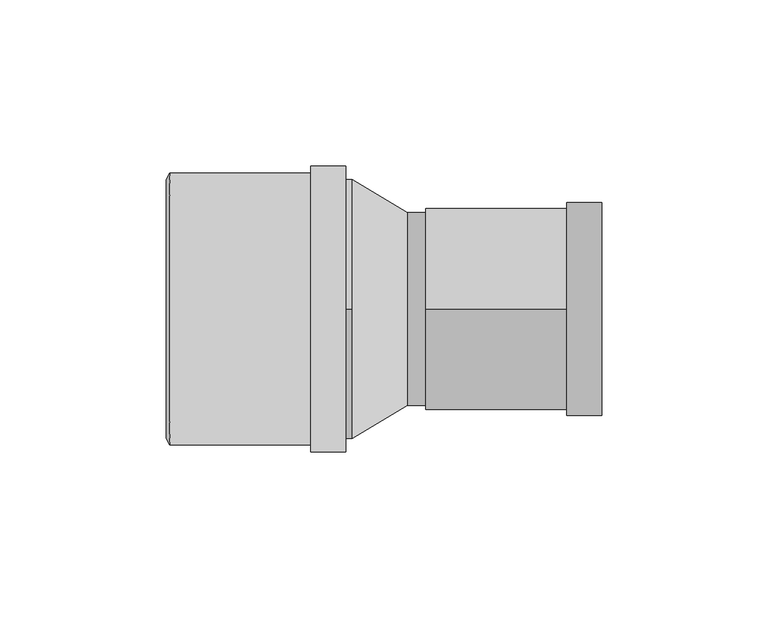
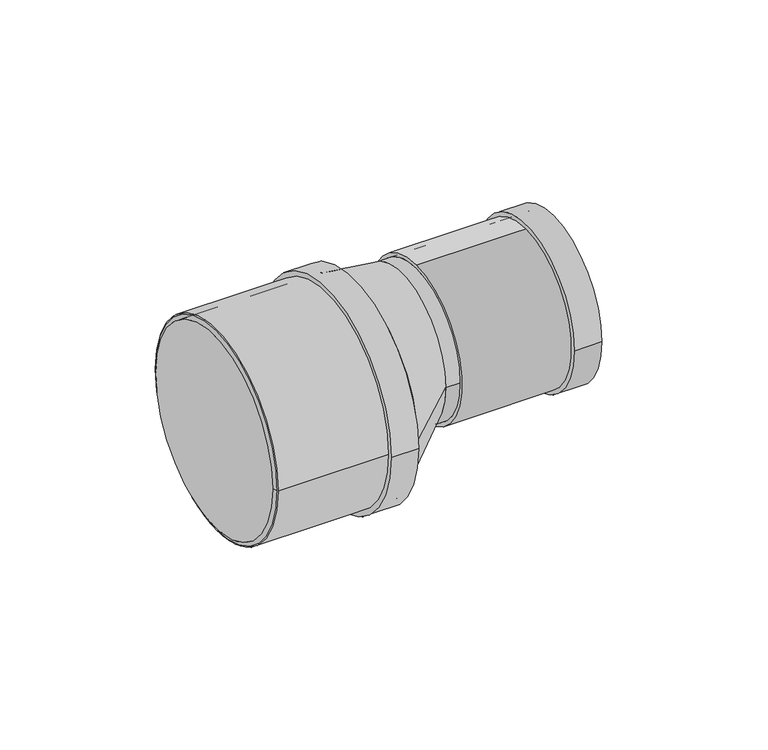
"""IFC4 building model written with IfcOpenShell, lengths in millimetres: pipe fitting geometry, Superdrain SKR-Reducer : Superdrain SKR-Reducer."""

import ifcopenshell
import ifcopenshell.guid

model = None  # the IFC model being written
_history = None  # IfcOwnerHistory: only IFC2X3 demands one
_inside = {}  # id of a spatial element -> (the spatial element, [elements in it])
_under = {}  # id of a project, library or spatial element -> (it, [spatial elements below it])
_declared = {}  # id of a project -> (the project, [libraries it declares])
_typed = {}  # id of a type object -> (the type object, [elements of that type])
_made_of = {}  # id of a material, layer set ... -> (it, [elements and type objects made of it])


def new_model(schema):
    """Start an empty IFC model of exactly this schema.

    Asked for "IFC4X3", IfcOpenShell would pick the latest addendum, in which some entities
    have other attributes; the version numbers below select the first issue.
    IFC2X3 requires an IfcOwnerHistory on every rooted entity: one is made here for all.
    """
    global model, _history
    if schema == "IFC4X3":
        model = ifcopenshell.file(schema_version=(4, 3, 0, 0))
    else:
        model = ifcopenshell.file(schema=schema)
    _inside.clear()
    _under.clear()
    _declared.clear()
    _typed.clear()
    _made_of.clear()
    _history = None
    if model.schema == "IFC2X3":
        org = make("IfcOrganization", Name="unknown")
        user = make(
            "IfcPersonAndOrganization",
            ThePerson=make("IfcPerson", FamilyName="unknown"),
            TheOrganization=org,
        )
        app = make(
            "IfcApplication",
            ApplicationDeveloper=org,
            Version="unknown",
            ApplicationFullName="unknown",
            ApplicationIdentifier="unknown",
        )
        _history = make(
            "IfcOwnerHistory",
            OwningUser=user,
            OwningApplication=app,
            ChangeAction="ADDED",
            CreationDate=0,
        )
    return model


def make(cls, **values):
    """One entity of the class cls with the attributes given. An attribute that is None is left unset."""
    return model.create_entity(
        cls, **{name: value for name, value in values.items() if value is not None}
    )


def rooted(cls, **values):
    """An entity with a GlobalId (a new one), such as an element, a storey or a relation."""
    return make(cls, GlobalId=ifcopenshell.guid.new(), OwnerHistory=_history, **values)


def si_unit(unit_type, name, prefix=None):
    """IfcSIUnit, for example si_unit("LENGTHUNIT", "METRE", prefix="MILLI")."""
    return make("IfcSIUnit", UnitType=unit_type, Prefix=prefix, Name=name)


def assignment(units):
    """IfcUnitAssignment: the units of a project."""
    return None if units is None else make("IfcUnitAssignment", Units=units)


def point(xyz):
    """IfcCartesianPoint."""
    return None if xyz is None else make("IfcCartesianPoint", Coordinates=xyz)


def direction(xyz):
    """IfcDirection."""
    return None if xyz is None else make("IfcDirection", DirectionRatios=xyz)


def frame(location, z_axis=None, x_axis=None):
    """IfcAxis2Placement3D, a coordinate frame: its origin and axes. An axis left out is left unset."""
    return make(
        "IfcAxis2Placement3D",
        Location=point(location),
        Axis=direction(z_axis),
        RefDirection=direction(x_axis),
    )


def frame_2d(location, x_axis=None):
    """IfcAxis2Placement2D, a coordinate frame in the plane: its origin and x axis."""
    return make(
        "IfcAxis2Placement2D", Location=point(location), RefDirection=direction(x_axis)
    )


def origin():
    """The frame at (0, 0, 0) with its axes left unset."""
    return frame((0.0, 0.0, 0.0))


def origin_2d():
    """The frame at (0, 0) in the plane with its x axis left unset."""
    return frame_2d((0.0, 0.0))


def place(relative_to, where):
    """IfcLocalPlacement: puts the frame where relative to a parent placement (None: the world)."""
    return make(
        "IfcLocalPlacement", PlacementRelTo=relative_to, RelativePlacement=where
    )


def context(
    kind, dimensions, precision=None, world=None, true_north=None, identifier=None
):
    """IfcGeometricRepresentationContext, for example the 3D "Model" context."""
    return make(
        "IfcGeometricRepresentationContext",
        ContextIdentifier=identifier,
        ContextType=kind,
        CoordinateSpaceDimension=dimensions,
        Precision=precision,
        WorldCoordinateSystem=world,
        TrueNorth=true_north,
    )


def project(units=None, contexts=None):
    """IfcProject with its units and contexts."""
    return rooted(
        "IfcProject",
        Name="project",
        RepresentationContexts=contexts,
        UnitsInContext=assignment(units),
    )


def spatial(cls, under=None, at=None, **own):
    """A site, building, storey or space (cls), placed at a placement, below another one or the project."""
    s = rooted(cls, ObjectPlacement=at, **own)
    if under is not None:
        _under.setdefault(under.id(), (under, []))[1].append(s)
    return s


def polyline(points):
    """IfcPolyline through the points."""
    return make("IfcPolyline", Points=[point(p) for p in points])


def circle_curve(where, radius):
    """IfcCircle in the frame where."""
    return make("IfcCircle", Position=where, Radius=radius)


def trimmed(basis, trim1, trim2, sense, master):
    """IfcTrimmedCurve: the piece of a basis curve between two trims."""
    return make(
        "IfcTrimmedCurve",
        BasisCurve=basis,
        Trim1=trim1,
        Trim2=trim2,
        SenseAgreement=sense,
        MasterRepresentation=master,
    )


def segment(curve, same_sense, transition):
    """IfcCompositeCurveSegment."""
    return make(
        "IfcCompositeCurveSegment",
        Transition=transition,
        SameSense=same_sense,
        ParentCurve=curve,
    )


def composite_curve(segments, self_intersect=None):
    """IfcCompositeCurve: segments joined end to end."""
    return make("IfcCompositeCurve", Segments=segments, SelfIntersect=self_intersect)


def outline(outer, holes=None, kind="AREA"):
    """IfcArbitraryClosedProfileDef: a profile drawn as a closed curve; with holes, ...WithVoids."""
    if holes is None:
        return make("IfcArbitraryClosedProfileDef", ProfileType=kind, OuterCurve=outer)
    return make(
        "IfcArbitraryProfileDefWithVoids",
        ProfileType=kind,
        OuterCurve=outer,
        InnerCurves=holes,
    )


def extrude(swept, where, along, depth):
    """IfcExtrudedAreaSolid: the profile swept, set in the frame where, extruded along a direction by depth."""
    return make(
        "IfcExtrudedAreaSolid",
        SweptArea=swept,
        Position=where,
        ExtrudedDirection=direction(along),
        Depth=depth,
    )


def shape(context_of_items, identifier, shape_type, items):
    """IfcShapeRepresentation: the items that make up one representation, for example the "Body"."""
    return make(
        "IfcShapeRepresentation",
        ContextOfItems=context_of_items,
        RepresentationIdentifier=identifier,
        RepresentationType=shape_type,
        Items=items,
    )


def source(mapping_origin, context_of_items, identifier, shape_type, items):
    """IfcRepresentationMap: a shape defined once, which mapped items show again and again."""
    return make(
        "IfcRepresentationMap",
        MappingOrigin=mapping_origin,
        MappedRepresentation=shape(context_of_items, identifier, shape_type, items),
    )


def transform(
    local_origin,
    x_axis=None,
    y_axis=None,
    z_axis=None,
    scale=None,
    scale2=None,
    scale3=None,
    uniform=True,
):
    """IfcCartesianTransformationOperator3D, or its non-uniform kind. x_axis, y_axis, z_axis: its Axis1, 2, 3."""
    if uniform:
        return make(
            "IfcCartesianTransformationOperator3D",
            Axis1=direction(x_axis),
            Axis2=direction(y_axis),
            LocalOrigin=point(local_origin),
            Scale=scale,
            Axis3=direction(z_axis),
        )
    return make(
        "IfcCartesianTransformationOperator3DnonUniform",
        Axis1=direction(x_axis),
        Axis2=direction(y_axis),
        LocalOrigin=point(local_origin),
        Scale=scale,
        Axis3=direction(z_axis),
        Scale2=scale2,
        Scale3=scale3,
    )


def mapped(mapping_source, mapping_target):
    """IfcMappedItem: shows the shape of a source again, moved by a transform."""
    return make(
        "IfcMappedItem", MappingSource=mapping_source, MappingTarget=mapping_target
    )


def made_of(thing, what):
    """Note that an element or type object is made of a material, layer set ...; save() writes the relation."""
    if what is not None:
        _made_of.setdefault(what.id(), (what, []))[1].append(thing)
    return thing


def element(
    cls,
    number,
    at=None,
    inside=None,
    cuts=None,
    type_object=None,
    material=None,
    context=None,
    identifier="Body",
    shape_type=None,
    held_by="IfcProductDefinitionShape",
    body=None,
    shapes=None,
    **own,
):
    """One element of the class cls, such as IfcWall. Its Tag is "e" and its number.

    at: its placement. inside: the storey or other place that contains it. cuts: it is an
    opening in that element (IfcRelVoidsElement). A single representation is given by context,
    identifier, shape_type and body (its items); several are given by shapes. held_by: the class
    of the entity that holds the representations. save() writes the other relations.
    """
    e = rooted(cls, Tag="e%d" % number, ObjectPlacement=at, **own)
    if body is not None:
        shapes = [shape(context, identifier, shape_type, body)]
    if shapes is not None:
        e.Representation = make(held_by, Representations=shapes)
    if inside is not None:
        _inside.setdefault(inside.id(), (inside, []))[1].append(e)
    if cuts is not None:
        rooted(
            "IfcRelVoidsElement", RelatingBuildingElement=cuts, RelatedOpeningElement=e
        )
    if type_object is not None:
        _typed.setdefault(type_object.id(), (type_object, []))[1].append(e)
    return made_of(e, material)


def aggregate(whole, parts):
    """IfcRelAggregates: a whole, such as a stair, and the parts it consists of."""
    return rooted("IfcRelAggregates", RelatingObject=whole, RelatedObjects=parts)


def save(model, path):
    """Write the relations noted so far, then the file.

    IfcRelAggregates (storeys below a building ...), IfcRelContainedInSpatialStructure (elements
    in a storey), IfcRelDefinesByType, IfcRelAssociatesMaterial and IfcRelDeclares: one each for
    every whole, place, type object, material and project.
    """
    for whole, parts in _under.values():
        aggregate(whole, parts)
    for where, things in _inside.values():
        rooted(
            "IfcRelContainedInSpatialStructure",
            RelatedElements=things,
            RelatingStructure=where,
        )
    for kind, things in _typed.values():
        rooted("IfcRelDefinesByType", RelatedObjects=things, RelatingType=kind)
    for what, things in _made_of.values():
        rooted("IfcRelAssociatesMaterial", RelatedObjects=things, RelatingMaterial=what)
    for by, libraries in _declared.values():
        rooted("IfcRelDeclares", RelatingContext=by, RelatedDefinitions=libraries)
    model.write(path)


def plane_surface(at):
    """IfcPlane: the flat surface through the origin of the frame at, square to its z axis."""
    return make("IfcPlane", Position=at)


def revolved_surface(curve, axis_point, axis_direction):
    """IfcSurfaceOfRevolution: the curve turned about the line through axis_point along axis_direction."""
    return make(
        "IfcSurfaceOfRevolution",
        SweptCurve=make("IfcArbitraryOpenProfileDef", ProfileType="CURVE", Curve=curve),
        AxisPosition=make("IfcAxis1Placement", Location=point(axis_point), Axis=direction(axis_direction)),
    )


def spline_surface(u_degree, v_degree, points, u_multiplicities, v_multiplicities, u_knots, v_knots, weights=None):
    """IfcBSplineSurfaceWithKnots; with weights, IfcRationalBSplineSurfaceWithKnots. points: one row for each step in u."""
    own = dict(
        UDegree=u_degree,
        VDegree=v_degree,
        ControlPointsList=[[point(p) for p in row] for row in points],
        SurfaceForm="UNSPECIFIED",
        UClosed=False,
        VClosed=False,
        SelfIntersect=False,
        UMultiplicities=u_multiplicities,
        VMultiplicities=v_multiplicities,
        UKnots=u_knots,
        VKnots=v_knots,
        KnotSpec="UNSPECIFIED",
    )
    if weights is None:
        return make("IfcBSplineSurfaceWithKnots", **own)
    return make("IfcRationalBSplineSurfaceWithKnots", WeightsData=weights, **own)


def advanced_brep(points, edges, surfaces, faces):
    """IfcAdvancedBrep: a solid bounded by faces that lie on surfaces and meet in shared edges.

    An edge is (start, end): straight between two places in points (the first is 0);
    or (start, end, curve); or (start, end, curve, False) where it runs against its curve.
    A face is (place in surfaces, loops), or (place, loops, False) where it looks against
    its surface's normal. A loop lists edges by number (the first is 1), with a minus sign
    where the edge is run from its end to its start. The first loop is the outer one.
    """
    corners = [point(p) for p in points]
    vertices = [make("IfcVertexPoint", VertexGeometry=c) for c in corners]
    made = []
    for start, end, *more in edges:
        made.append(
            make(
                "IfcEdgeCurve",
                EdgeStart=vertices[start],
                EdgeEnd=vertices[end],
                EdgeGeometry=more[0] if more else make("IfcPolyline", Points=[corners[start], corners[end]]),
                SameSense=more[1] if len(more) > 1 else True,
            )
        )
    hull = []
    for where, loops, *sense in faces:
        bounds = []
        for j, loop in enumerate(loops):
            ring = [make("IfcOrientedEdge", EdgeElement=made[abs(k) - 1], Orientation=k > 0) for k in loop]
            bounds.append(
                make(
                    "IfcFaceOuterBound" if j == 0 else "IfcFaceBound",
                    Bound=make("IfcEdgeLoop", EdgeList=ring),
                    Orientation=True,
                )
            )
        hull.append(make("IfcAdvancedFace", Bounds=bounds, FaceSurface=surfaces[where], SameSense=sense[0] if sense else True))
    return make("IfcAdvancedBrep", Outer=make("IfcClosedShell", CfsFaces=hull))


def pipe_fitting_bc1e16e1(model_context):
    return source(origin(), model_context, "Body", "SolidModel", [
        extrude(outline(composite_curve([segment(trimmed(circle_curve(frame_2d((0.0, 0.1450234)), 40.95), [point((40.95, 0.1450234))], [point((-40.95, 0.1450234))], False, "CARTESIAN"), True, "CONTINUOUS"), segment(trimmed(circle_curve(frame_2d((0.0, 0.1450234)), 40.95), [point((-40.95, 0.1450234))], [point((40.95, 0.1450234))], False, "CARTESIAN"), True, "CONTINUOUS")], self_intersect=False), holes=[composite_curve([segment(trimmed(circle_curve(frame_2d((0.0, 0.1450234)), 39.0), [point((39.0, 0.1450234))], [point((-39.0, 0.1450234))], True, "CARTESIAN"), True, "CONTINUOUS"), segment(trimmed(circle_curve(frame_2d((0.0, 0.1450234)), 39.0), [point((-39.0, 0.1450234))], [point((39.0, 0.1450234))], True, "CARTESIAN"), True, "CONTINUOUS")], self_intersect=False)]), frame((-55.0, 0.0, 0.0), z_axis=(1.0, 0.0, 0.0), x_axis=(0.0, 1.0, 0.0)), (0.0, 0.0, 1.0), 53.0),
        extrude(outline(composite_curve([segment(trimmed(circle_curve(frame_2d((0.0, 0.1450234)), 42.9975), [point((42.9975, 0.1450234))], [point((-42.9975, 0.1450234))], False, "CARTESIAN"), True, "CONTINUOUS"), segment(trimmed(circle_curve(frame_2d((0.0, 0.1450234)), 42.9975), [point((-42.9975, 0.1450234))], [point((42.9975, 0.1450234))], False, "CARTESIAN"), True, "CONTINUOUS")], self_intersect=False), holes=[composite_curve([segment(trimmed(circle_curve(frame_2d((0.0, 0.1450234)), 39.0), [point((39.0, 0.1450234))], [point((-39.0, 0.1450234))], True, "CARTESIAN"), True, "CONTINUOUS"), segment(trimmed(circle_curve(frame_2d((0.0, 0.1450234)), 39.0), [point((-39.0, 0.1450234))], [point((39.0, 0.1450234))], True, "CARTESIAN"), True, "CONTINUOUS")], self_intersect=False)]), frame((-12.6, 0.0, 0.0), z_axis=(1.0, 0.0, 0.0), x_axis=(0.0, 1.0, 0.0)), (0.0, 0.0, 1.0), 10.6),
        advanced_brep(
        [(-56.0, 39.0, 0.1450234), (-56.0, -39.0, 0.1450234), (-55.0, 40.95, 0.1450234), (-55.0, -40.95, 0.1450234)],
        [
            (0, 1, circle_curve(frame((-56.0, 0.0, 0.1450234), z_axis=(-1.0, 0.0, 0.0), x_axis=(0.0, 1.0, 0.0)), 39.0)),
            (1, 0, circle_curve(frame((-56.0, 0.0, 0.1450234), z_axis=(-1.0, 0.0, 0.0), x_axis=(0.0, -1.0, 0.0)), 39.0)),
            (2, 3, circle_curve(frame((-55.0, 0.0, 0.1450234), z_axis=(1.0, 0.0, 0.0), x_axis=(0.0, -1.0, 0.0)), 40.95)),
            (3, 2, circle_curve(frame((-55.0, 0.0, 0.1450234), z_axis=(1.0, 0.0, 0.0), x_axis=(0.0, 1.0, 0.0)), 40.95)),
            (3, 1),
            (0, 2),
        ],
        [
            plane_surface(frame((-56.0, 0.0, 0.1450234), z_axis=(-1.0, 0.0, 0.0), x_axis=(0.0, 0.0, -1.0))),
            plane_surface(frame((-55.0, 0.0, 0.1450234), z_axis=(1.0, 0.0, 0.0), x_axis=(0.0, 0.0, -1.0))),
            revolved_surface(polyline([(-56.0, 39.0, 0.1450234), (-55.0, 40.95, 0.1450234)]), (-76.0, 0.0, 0.1450234), (1.0, 0.0, 0.0)),
            revolved_surface(polyline([(-56.0, -39.0, 0.1450234), (-55.0, -40.95, 0.1450234)]), (-76.0, 0.0, 0.1450234), (1.0, 0.0, 0.0)),
        ],
        [
            (0, [[1, 2]]),
            (1, [[3, 4]]),
            (2, [[-4, 5, -1, 6]]),
            (3, [[-3, -6, -2, -5]]),
        ],
    ),
        advanced_brep(
        [(16.5, -29.0, 10.0), (16.5, 29.0, 10.0), (0.0, -39.0, 0.0), (0.0, 39.0, 0.0)],
        [
            (0, 1, circle_curve(frame((16.5, 0.0, 10.0), z_axis=(1.0, 0.0, 0.0), x_axis=(0.0, 1.0, 0.0)), 29.0)),
            (1, 0, circle_curve(frame((16.5, 0.0, 10.0), z_axis=(1.0, 0.0, 0.0), x_axis=(0.0, 1.0, 0.0)), 29.0)),
            (2, 3, circle_curve(frame((0.0, 0.0, 0.0), z_axis=(-1.0, 0.0, 0.0), x_axis=(0.0, 1.0, 0.0)), 39.0)),
            (3, 2, circle_curve(frame((0.0, 0.0, 0.0), z_axis=(-1.0, 0.0, 0.0), x_axis=(0.0, 1.0, 0.0)), 39.0)),
            (3, 1),
            (0, 2),
        ],
        [
            plane_surface(frame((16.5, 0.0, 10.0), z_axis=(1.0, 0.0, 0.0), x_axis=(0.0, 0.0, -1.0))),
            plane_surface(frame((0.0, 0.0, 0.0), z_axis=(-1.0, 0.0, 0.0), x_axis=(0.0, 0.0, -1.0))),
            spline_surface(2, 1, [[(0.0, -39.0, 0.0), (16.5, -29.0, 10.0)], [(0.0, -39.0, -39.0), (16.5, -29.0, -19.0)], [(0.0, 0.0, -39.0), (16.5, 0.0, -19.0)], [(0.0, 39.0, -39.0), (16.5, 29.0, -19.0)], [(0.0, 39.0, 0.0), (16.5, 29.0, 10.0)]], [3, 2, 3], [2, 2], [0.0, 1.0, 2.0], [0.0, 1.0], weights=[[1.0, 1.0], [0.7071067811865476, 0.7071067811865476], [1.0, 1.0], [0.7071067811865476, 0.7071067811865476], [1.0, 1.0]]),
            spline_surface(2, 1, [[(0.0, 39.0, 0.0), (16.5, 29.0, 10.0)], [(0.0, 39.0, 39.0), (16.5, 29.0, 39.0)], [(0.0, 0.0, 39.0), (16.5, 0.0, 39.0)], [(0.0, -39.0, 39.0), (16.5, -29.0, 39.0)], [(0.0, -39.0, 0.0), (16.5, -29.0, 10.0)]], [3, 2, 3], [2, 2], [0.0, 1.0, 2.0], [0.0, 1.0], weights=[[1.0, 1.0], [0.7071067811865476, 0.7071067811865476], [1.0, 1.0], [0.7071067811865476, 0.7071067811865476], [1.0, 1.0]]),
        ],
        [
            (0, [[1, 2]]),
            (1, [[3, 4]]),
            (2, [[-4, 5, -1, 6]]),
            (3, [[-3, -6, -2, -5]]),
        ],
    ),
        extrude(outline(composite_curve([segment(trimmed(circle_curve(frame_2d((0.0, 10.0)), 29.0), [point((-29.0, 10.0))], [point((29.0, 10.0))], False, "CARTESIAN"), True, "CONTINUOUS"), segment(trimmed(circle_curve(frame_2d((0.0, 10.0)), 29.0), [point((29.0, 10.0))], [point((-29.0, 10.0))], False, "CARTESIAN"), True, "CONTINUOUS")], self_intersect=False)), frame((16.5, 0.0, 0.0), z_axis=(1.0, 0.0, 0.0), x_axis=(0.0, 1.0, 0.0)), (0.0, 0.0, 1.0), 5.5),
        extrude(outline(composite_curve([segment(trimmed(circle_curve(frame_2d((0.0, 10.0)), 31.9725), [point((-31.9725, 10.0))], [point((31.9725, 10.0))], False, "CARTESIAN"), True, "CONTINUOUS"), segment(trimmed(circle_curve(frame_2d((0.0, 10.0)), 31.9725), [point((31.9725, 10.0))], [point((-31.9725, 10.0))], False, "CARTESIAN"), True, "CONTINUOUS")], self_intersect=False), holes=[composite_curve([segment(trimmed(circle_curve(frame_2d((0.0, 10.0)), 29.0), [point((29.0, 10.0))], [point((-29.0, 10.0))], True, "CARTESIAN"), True, "CONTINUOUS"), segment(trimmed(circle_curve(frame_2d((0.0, 10.0)), 29.0), [point((-29.0, 10.0))], [point((29.0, 10.0))], True, "CARTESIAN"), True, "CONTINUOUS")], self_intersect=False)]), frame((64.4, 0.0, 0.0), z_axis=(1.0, 0.0, 0.0), x_axis=(0.0, 1.0, 0.0)), (0.0, 0.0, 1.0), 10.6),
        extrude(outline(composite_curve([segment(trimmed(circle_curve(frame_2d((0.0, 10.0)), 30.45), [point((0.0, 40.45))], [point((0.0, -20.45))], False, "CARTESIAN"), True, "CONTINUOUS"), segment(trimmed(circle_curve(frame_2d((0.0, 10.0)), 30.45), [point((0.0, -20.45))], [point((0.0, 40.45))], False, "CARTESIAN"), True, "CONTINUOUS")], self_intersect=False), holes=[composite_curve([segment(trimmed(circle_curve(frame_2d((0.0, 10.0)), 29.0), [point((29.0, 10.0))], [point((-29.0, 10.0))], True, "CARTESIAN"), True, "CONTINUOUS"), segment(trimmed(circle_curve(frame_2d((0.0, 10.0)), 29.0), [point((-29.0, 10.0))], [point((29.0, 10.0))], True, "CARTESIAN"), True, "CONTINUOUS")], self_intersect=False)]), frame((22.0, 0.0, 0.0), z_axis=(1.0, 0.0, 0.0), x_axis=(0.0, 1.0, 0.0)), (0.0, 0.0, 1.0), 53.0),
        extrude(outline(composite_curve([segment(trimmed(circle_curve(origin_2d(), 39.0), [point((0.0, 39.0))], [point((0.0, -39.0))], False, "CARTESIAN"), True, "CONTINUOUS"), segment(trimmed(circle_curve(origin_2d(), 39.0), [point((0.0, -39.0))], [point((0.0, 39.0))], False, "CARTESIAN"), True, "CONTINUOUS")], self_intersect=False)), frame((-55.0, 0.0, 0.0), z_axis=(1.0, 0.0, 0.0), x_axis=(0.0, 1.0, 0.0)), (0.0, 0.0, 1.0), 55.0),
    ])


if __name__ == "__main__":
    model = new_model("IFC4")
    model_context = context("Model", 3, world=origin())
    ifc_project = project(units=[si_unit("LENGTHUNIT", "METRE", prefix="MILLI")], contexts=[model_context])
    site = spatial("IfcSite", under=ifc_project)
    building = spatial("IfcBuilding", under=site)
    placement = place(None, origin())
    pipe_fitting_shape = pipe_fitting_bc1e16e1(model_context)
    element("IfcPipeFitting", 1, ObjectType="Superdrain SKR-Reducer : Superdrain SKR-Reducer", at=placement, inside=building, context=model_context, shape_type="MappedRepresentation", body=[
        mapped(pipe_fitting_shape, transform((0.0, 0.0, 0.0), x_axis=(1.0, 0.0, 0.0), y_axis=(0.0, 1.0, 0.0), z_axis=(0.0, 0.0, 1.0))),
    ])
    save(model, "model.ifc")
